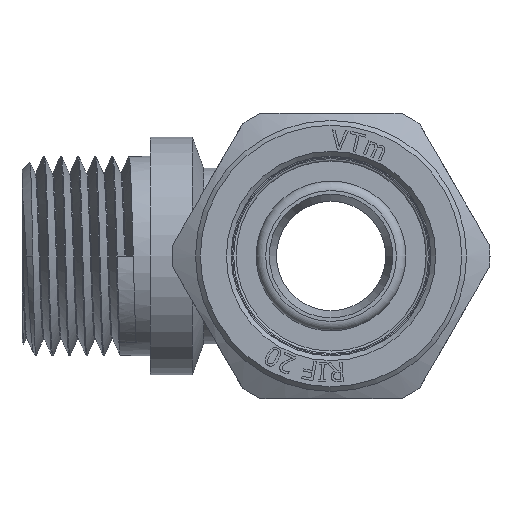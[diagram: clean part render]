
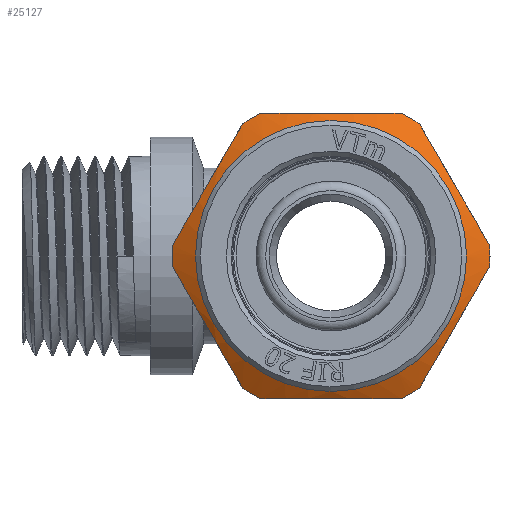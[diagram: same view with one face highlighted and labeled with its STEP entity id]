
A CAD part, left-side view. The second image highlights one B-rep face of the part: STEP entity #25127.
In plain terms, the highlighted conical face has half-angle 60 degrees and reference radius 15.484 mm.
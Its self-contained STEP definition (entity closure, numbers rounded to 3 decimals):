
#61=(
BOUNDED_CURVE()
B_SPLINE_CURVE(2,(#44985,#44986,#44987),.UNSPECIFIED.,.F.,.F.)
B_SPLINE_CURVE_WITH_KNOTS((3,3),(0.,1.489),.UNSPECIFIED.)
CURVE()
GEOMETRIC_REPRESENTATION_ITEM()
RATIONAL_B_SPLINE_CURVE((1.,1.114,1.))
REPRESENTATION_ITEM('')
);
#63=(
BOUNDED_CURVE()
B_SPLINE_CURVE(2,(#44998,#44999,#45000),.UNSPECIFIED.,.F.,.F.)
B_SPLINE_CURVE_WITH_KNOTS((3,3),(0.,1.489),.UNSPECIFIED.)
CURVE()
GEOMETRIC_REPRESENTATION_ITEM()
RATIONAL_B_SPLINE_CURVE((1.,1.114,1.))
REPRESENTATION_ITEM('')
);
#65=(
BOUNDED_CURVE()
B_SPLINE_CURVE(2,(#45011,#45012,#45013),.UNSPECIFIED.,.F.,.F.)
B_SPLINE_CURVE_WITH_KNOTS((3,3),(0.,1.489),.UNSPECIFIED.)
CURVE()
GEOMETRIC_REPRESENTATION_ITEM()
RATIONAL_B_SPLINE_CURVE((1.,1.114,1.))
REPRESENTATION_ITEM('')
);
#67=(
BOUNDED_CURVE()
B_SPLINE_CURVE(2,(#45024,#45025,#45026),.UNSPECIFIED.,.F.,.F.)
B_SPLINE_CURVE_WITH_KNOTS((3,3),(0.,1.489),.UNSPECIFIED.)
CURVE()
GEOMETRIC_REPRESENTATION_ITEM()
RATIONAL_B_SPLINE_CURVE((1.,1.114,1.))
REPRESENTATION_ITEM('')
);
#69=(
BOUNDED_CURVE()
B_SPLINE_CURVE(2,(#45037,#45038,#45039),.UNSPECIFIED.,.F.,.F.)
B_SPLINE_CURVE_WITH_KNOTS((3,3),(0.,1.489),.UNSPECIFIED.)
CURVE()
GEOMETRIC_REPRESENTATION_ITEM()
RATIONAL_B_SPLINE_CURVE((1.,1.114,1.))
REPRESENTATION_ITEM('')
);
#71=(
BOUNDED_CURVE()
B_SPLINE_CURVE(2,(#45050,#45051,#45052),.UNSPECIFIED.,.F.,.F.)
B_SPLINE_CURVE_WITH_KNOTS((3,3),(0.,1.489),.UNSPECIFIED.)
CURVE()
GEOMETRIC_REPRESENTATION_ITEM()
RATIONAL_B_SPLINE_CURVE((1.,1.114,1.))
REPRESENTATION_ITEM('')
);
#1171=LINE('',#46255,#2855);
#2855=VECTOR('',#29110,15.484);
#5602=FACE_OUTER_BOUND('',#7040,.T.);
#7040=EDGE_LOOP('',(#20286,#20287,#20288,#20289,#20290,#20291,#20292,#20293,
#20294,#20295,#20296,#20297,#20298,#20299,#20300,#20301,#20302));
#9541=CIRCLE('',#26344,16.717);
#9542=CIRCLE('',#26345,16.717);
#9543=CIRCLE('',#26346,14.25);
#9544=CIRCLE('',#26347,14.25);
#9545=CIRCLE('',#26348,16.717);
#9546=CIRCLE('',#26349,16.717);
#9547=CIRCLE('',#26350,16.717);
#9548=CIRCLE('',#26351,16.717);
#9549=CIRCLE('',#26352,16.717);
#11119=VERTEX_POINT('',#44982);
#11120=VERTEX_POINT('',#44984);
#11123=VERTEX_POINT('',#44995);
#11124=VERTEX_POINT('',#44997);
#11127=VERTEX_POINT('',#45008);
#11128=VERTEX_POINT('',#45010);
#11131=VERTEX_POINT('',#45021);
#11132=VERTEX_POINT('',#45023);
#11135=VERTEX_POINT('',#45034);
#11136=VERTEX_POINT('',#45036);
#11139=VERTEX_POINT('',#45047);
#11140=VERTEX_POINT('',#45049);
#11355=VERTEX_POINT('',#46252);
#11356=VERTEX_POINT('',#46254);
#11357=VERTEX_POINT('',#46256);
#14287=EDGE_CURVE('',#11120,#11119,#61,.T.);
#14291=EDGE_CURVE('',#11124,#11123,#63,.T.);
#14295=EDGE_CURVE('',#11128,#11127,#65,.T.);
#14299=EDGE_CURVE('',#11132,#11131,#67,.T.);
#14303=EDGE_CURVE('',#11136,#11135,#69,.T.);
#14307=EDGE_CURVE('',#11140,#11139,#71,.T.);
#14630=EDGE_CURVE('',#11140,#11119,#9541,.T.);
#14631=EDGE_CURVE('',#11355,#11139,#9542,.T.);
#14632=EDGE_CURVE('',#11355,#11356,#1171,.T.);
#14633=EDGE_CURVE('',#11356,#11357,#9543,.T.);
#14634=EDGE_CURVE('',#11357,#11356,#9544,.T.);
#14635=EDGE_CURVE('',#11136,#11355,#9545,.T.);
#14636=EDGE_CURVE('',#11132,#11135,#9546,.T.);
#14637=EDGE_CURVE('',#11128,#11131,#9547,.T.);
#14638=EDGE_CURVE('',#11124,#11127,#9548,.T.);
#14639=EDGE_CURVE('',#11120,#11123,#9549,.T.);
#20286=ORIENTED_EDGE('',*,*,#14287,.T.);
#20287=ORIENTED_EDGE('',*,*,#14630,.F.);
#20288=ORIENTED_EDGE('',*,*,#14307,.T.);
#20289=ORIENTED_EDGE('',*,*,#14631,.F.);
#20290=ORIENTED_EDGE('',*,*,#14632,.T.);
#20291=ORIENTED_EDGE('',*,*,#14633,.T.);
#20292=ORIENTED_EDGE('',*,*,#14634,.T.);
#20293=ORIENTED_EDGE('',*,*,#14632,.F.);
#20294=ORIENTED_EDGE('',*,*,#14635,.F.);
#20295=ORIENTED_EDGE('',*,*,#14303,.T.);
#20296=ORIENTED_EDGE('',*,*,#14636,.F.);
#20297=ORIENTED_EDGE('',*,*,#14299,.T.);
#20298=ORIENTED_EDGE('',*,*,#14637,.F.);
#20299=ORIENTED_EDGE('',*,*,#14295,.T.);
#20300=ORIENTED_EDGE('',*,*,#14638,.F.);
#20301=ORIENTED_EDGE('',*,*,#14291,.T.);
#20302=ORIENTED_EDGE('',*,*,#14639,.F.);
#24397=CONICAL_SURFACE('',#26343,15.484,1.047);
#25127=ADVANCED_FACE('',(#5602),#24397,.T.);
#26343=AXIS2_PLACEMENT_3D('',#46250,#29104,#29105);
#26344=AXIS2_PLACEMENT_3D('',#46251,#29106,#29107);
#26345=AXIS2_PLACEMENT_3D('',#46253,#29108,#29109);
#26346=AXIS2_PLACEMENT_3D('',#46257,#29111,#29112);
#26347=AXIS2_PLACEMENT_3D('',#46258,#29113,#29114);
#26348=AXIS2_PLACEMENT_3D('',#46259,#29115,#29116);
#26349=AXIS2_PLACEMENT_3D('',#46260,#29117,#29118);
#26350=AXIS2_PLACEMENT_3D('',#46261,#29119,#29120);
#26351=AXIS2_PLACEMENT_3D('',#46262,#29121,#29122);
#26352=AXIS2_PLACEMENT_3D('',#46263,#29123,#29124);
#29104=DIRECTION('center_axis',(1.,0.,0.));
#29105=DIRECTION('ref_axis',(0.,1.,0.));
#29106=DIRECTION('center_axis',(1.,0.,0.));
#29107=DIRECTION('ref_axis',(0.,0.,1.));
#29108=DIRECTION('center_axis',(1.,0.,0.));
#29109=DIRECTION('ref_axis',(0.,0.,1.));
#29110=DIRECTION('',(-0.5,0.866,0.));
#29111=DIRECTION('center_axis',(1.,0.,0.));
#29112=DIRECTION('ref_axis',(0.,0.,1.));
#29113=DIRECTION('center_axis',(1.,0.,0.));
#29114=DIRECTION('ref_axis',(0.,0.,1.));
#29115=DIRECTION('center_axis',(1.,0.,0.));
#29116=DIRECTION('ref_axis',(0.,0.,1.));
#29117=DIRECTION('center_axis',(1.,0.,0.));
#29118=DIRECTION('ref_axis',(0.,0.,1.));
#29119=DIRECTION('center_axis',(1.,0.,0.));
#29120=DIRECTION('ref_axis',(0.,0.,1.));
#29121=DIRECTION('center_axis',(1.,0.,0.));
#29122=DIRECTION('ref_axis',(0.,0.,1.));
#29123=DIRECTION('center_axis',(1.,0.,0.));
#29124=DIRECTION('ref_axis',(0.,0.,1.));
#44982=CARTESIAN_POINT('',(-34.032,-7.38,-15.));
#44984=CARTESIAN_POINT('',(-34.032,7.38,-15.));
#44985=CARTESIAN_POINT('Ctrl Pts',(-34.032,7.38,-15.));
#44986=CARTESIAN_POINT('Ctrl Pts',(-35.913,0.,
-15.));
#44987=CARTESIAN_POINT('Ctrl Pts',(-34.032,-7.38,
-15.));
#44995=CARTESIAN_POINT('',(-34.032,9.3,-13.892));
#44997=CARTESIAN_POINT('',(-34.032,16.681,-1.108));
#44998=CARTESIAN_POINT('Ctrl Pts',(-34.032,16.681,-1.108));
#44999=CARTESIAN_POINT('Ctrl Pts',(-35.913,12.99,-7.5));
#45000=CARTESIAN_POINT('Ctrl Pts',(-34.032,9.3,-13.892));
#45008=CARTESIAN_POINT('',(-34.032,16.681,1.108));
#45010=CARTESIAN_POINT('',(-34.032,9.3,13.892));
#45011=CARTESIAN_POINT('Ctrl Pts',(-34.032,9.3,13.892));
#45012=CARTESIAN_POINT('Ctrl Pts',(-35.913,12.99,7.5));
#45013=CARTESIAN_POINT('Ctrl Pts',(-34.032,16.681,1.108));
#45021=CARTESIAN_POINT('',(-34.032,7.38,15.));
#45023=CARTESIAN_POINT('',(-34.032,-7.38,15.));
#45024=CARTESIAN_POINT('Ctrl Pts',(-34.032,-7.38,
15.));
#45025=CARTESIAN_POINT('Ctrl Pts',(-35.913,0.,
15.));
#45026=CARTESIAN_POINT('Ctrl Pts',(-34.032,7.38,15.));
#45034=CARTESIAN_POINT('',(-34.032,-9.3,13.892));
#45036=CARTESIAN_POINT('',(-34.032,-16.681,1.108));
#45037=CARTESIAN_POINT('Ctrl Pts',(-34.032,-16.681,
1.108));
#45038=CARTESIAN_POINT('Ctrl Pts',(-35.913,-12.99,
7.5));
#45039=CARTESIAN_POINT('Ctrl Pts',(-34.032,-9.3,
13.892));
#45047=CARTESIAN_POINT('',(-34.032,-16.681,-1.108));
#45049=CARTESIAN_POINT('',(-34.032,-9.3,-13.892));
#45050=CARTESIAN_POINT('Ctrl Pts',(-34.032,-9.3,
-13.892));
#45051=CARTESIAN_POINT('Ctrl Pts',(-35.913,-12.99,
-7.5));
#45052=CARTESIAN_POINT('Ctrl Pts',(-34.032,-16.681,
-1.108));
#46250=CARTESIAN_POINT('Origin',(-34.744,0.,
0.));
#46251=CARTESIAN_POINT('Origin',(-34.032,0.,
0.));
#46252=CARTESIAN_POINT('',(-34.032,-16.717,0.));
#46253=CARTESIAN_POINT('Origin',(-34.032,0.,
0.));
#46254=CARTESIAN_POINT('',(-35.457,-14.25,0.));
#46255=CARTESIAN_POINT('',(-34.744,-15.484,0.));
#46256=CARTESIAN_POINT('',(-35.457,14.25,0.));
#46257=CARTESIAN_POINT('Origin',(-35.457,0.,
0.));
#46258=CARTESIAN_POINT('Origin',(-35.457,0.,
0.));
#46259=CARTESIAN_POINT('Origin',(-34.032,0.,
0.));
#46260=CARTESIAN_POINT('Origin',(-34.032,0.,
0.));
#46261=CARTESIAN_POINT('Origin',(-34.032,0.,
0.));
#46262=CARTESIAN_POINT('Origin',(-34.032,0.,
0.));
#46263=CARTESIAN_POINT('Origin',(-34.032,0.,
0.));
